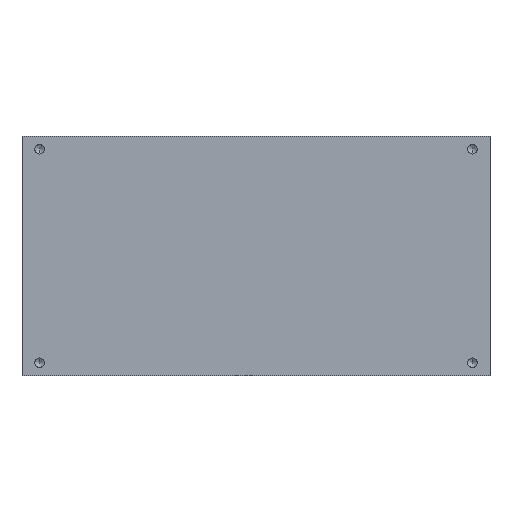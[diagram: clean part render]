
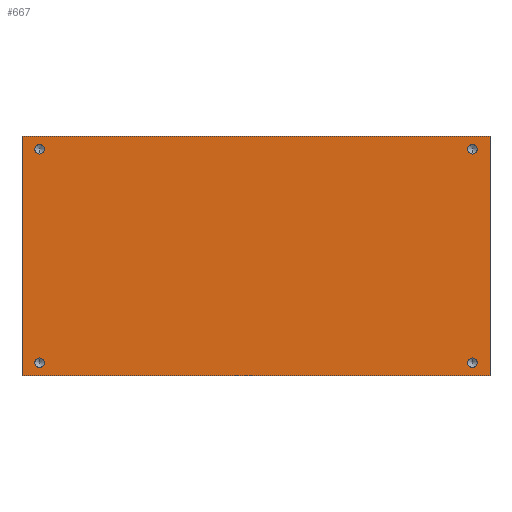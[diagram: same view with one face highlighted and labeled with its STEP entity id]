
A CAD part, front view. The second image highlights one B-rep face of the part: STEP entity #667.
In plain terms, the highlighted planar face has unit normal (0, -1, 0).
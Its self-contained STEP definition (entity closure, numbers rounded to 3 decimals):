
#13 = VERTEX_POINT ( 'NONE', #592 ) ;
#14 = EDGE_CURVE ( 'NONE', #442, #400, #664, .T. ) ;
#19 = DIRECTION ( 'NONE',  ( 0., 1., 0. ) ) ;
#35 = CIRCLE ( 'NONE', #460, 1.65 ) ;
#56 = VECTOR ( 'NONE', #136, 1000. ) ;
#78 = ORIENTED_EDGE ( 'NONE', *, *, #567, .F. ) ;
#85 = EDGE_CURVE ( 'NONE', #321, #559, #666, .T. ) ;
#94 = DIRECTION ( 'NONE',  ( 0., 0., -1. ) ) ;
#95 = EDGE_LOOP ( 'NONE', ( #175, #510 ) ) ;
#99 = AXIS2_PLACEMENT_3D ( 'NONE', #487, #267, #708 ) ;
#106 = DIRECTION ( 'NONE',  ( 0., 0., -1. ) ) ;
#107 = EDGE_CURVE ( 'NONE', #283, #298, #286, .T. ) ;
#121 = DIRECTION ( 'NONE',  ( 0., -1., 0. ) ) ;
#124 = ORIENTED_EDGE ( 'NONE', *, *, #348, .F. ) ;
#131 = FACE_BOUND ( 'NONE', #301, .T. ) ;
#132 = EDGE_LOOP ( 'NONE', ( #165, #454, #499, #492 ) ) ;
#136 = DIRECTION ( 'NONE',  ( 0., 0., -1. ) ) ;
#153 = CARTESIAN_POINT ( 'NONE',  ( 80., -6., 41. ) ) ;
#157 = CARTESIAN_POINT ( 'NONE',  ( -74., -6., -36.5 ) ) ;
#160 = CARTESIAN_POINT ( 'NONE',  ( -74., -6., -36.5 ) ) ;
#163 = AXIS2_PLACEMENT_3D ( 'NONE', #160, #399, #611 ) ;
#165 = ORIENTED_EDGE ( 'NONE', *, *, #314, .F. ) ;
#170 = VERTEX_POINT ( 'NONE', #387 ) ;
#175 = ORIENTED_EDGE ( 'NONE', *, *, #107, .F. ) ;
#180 = LINE ( 'NONE', #722, #325 ) ;
#185 = LINE ( 'NONE', #480, #56 ) ;
#186 = CARTESIAN_POINT ( 'NONE',  ( -74., -6., 38.15 ) ) ;
#211 = AXIS2_PLACEMENT_3D ( 'NONE', #530, #19, #638 ) ;
#212 = DIRECTION ( 'NONE',  ( 0., -1., 0. ) ) ;
#234 = ORIENTED_EDGE ( 'NONE', *, *, #85, .F. ) ;
#235 = FACE_BOUND ( 'NONE', #320, .T. ) ;
#238 = EDGE_LOOP ( 'NONE', ( #78, #447 ) ) ;
#245 = CARTESIAN_POINT ( 'NONE',  ( -74., -6., 34.85 ) ) ;
#267 = DIRECTION ( 'NONE',  ( 0., -1., 0. ) ) ;
#278 = CARTESIAN_POINT ( 'NONE',  ( 74., -6., 36.5 ) ) ;
#283 = VERTEX_POINT ( 'NONE', #715 ) ;
#284 = CARTESIAN_POINT ( 'NONE',  ( 74., -6., -36.5 ) ) ;
#286 = CIRCLE ( 'NONE', #163, 1.65 ) ;
#289 = DIRECTION ( 'NONE',  ( 0., 0., -1. ) ) ;
#297 = CARTESIAN_POINT ( 'NONE',  ( -74., -6., -34.85 ) ) ;
#298 = VERTEX_POINT ( 'NONE', #297 ) ;
#301 = EDGE_LOOP ( 'NONE', ( #701, #234 ) ) ;
#314 = EDGE_CURVE ( 'NONE', #170, #583, #180, .T. ) ;
#319 = AXIS2_PLACEMENT_3D ( 'NONE', #157, #121, #106 ) ;
#320 = EDGE_LOOP ( 'NONE', ( #324, #124 ) ) ;
#321 = VERTEX_POINT ( 'NONE', #511 ) ;
#324 = ORIENTED_EDGE ( 'NONE', *, *, #443, .F. ) ;
#325 = VECTOR ( 'NONE', #620, 1000. ) ;
#328 = CIRCLE ( 'NONE', #415, 1.65 ) ;
#343 = CARTESIAN_POINT ( 'NONE',  ( 80., -6., -41. ) ) ;
#348 = EDGE_CURVE ( 'NONE', #420, #689, #427, .T. ) ;
#378 = CARTESIAN_POINT ( 'NONE',  ( 74., -6., -38.15 ) ) ;
#387 = CARTESIAN_POINT ( 'NONE',  ( -80., -6., -41. ) ) ;
#388 = AXIS2_PLACEMENT_3D ( 'NONE', #278, #619, #562 ) ;
#391 = CIRCLE ( 'NONE', #402, 1.65 ) ;
#396 = DIRECTION ( 'NONE',  ( 1., 0., 0. ) ) ;
#399 = DIRECTION ( 'NONE',  ( 0., -1., 0. ) ) ;
#400 = VERTEX_POINT ( 'NONE', #378 ) ;
#402 = AXIS2_PLACEMENT_3D ( 'NONE', #556, #212, #289 ) ;
#415 = AXIS2_PLACEMENT_3D ( 'NONE', #284, #665, #560 ) ;
#420 = VERTEX_POINT ( 'NONE', #186 ) ;
#426 = DIRECTION ( 'NONE',  ( -1., 0., 0. ) ) ;
#427 = CIRCLE ( 'NONE', #99, 1.65 ) ;
#432 = FACE_OUTER_BOUND ( 'NONE', #132, .T. ) ;
#442 = VERTEX_POINT ( 'NONE', #486 ) ;
#443 = EDGE_CURVE ( 'NONE', #689, #420, #391, .T. ) ;
#445 = EDGE_CURVE ( 'NONE', #298, #283, #544, .T. ) ;
#447 = ORIENTED_EDGE ( 'NONE', *, *, #14, .F. ) ;
#454 = ORIENTED_EDGE ( 'NONE', *, *, #698, .F. ) ;
#455 = DIRECTION ( 'NONE',  ( 0., -1., 0. ) ) ;
#460 = AXIS2_PLACEMENT_3D ( 'NONE', #618, #455, #565 ) ;
#461 = CARTESIAN_POINT ( 'NONE',  ( 74., -6., 34.85 ) ) ;
#480 = CARTESIAN_POINT ( 'NONE',  ( 80., -6., 41. ) ) ;
#482 = VECTOR ( 'NONE', #426, 1000. ) ;
#486 = CARTESIAN_POINT ( 'NONE',  ( 74., -6., -34.85 ) ) ;
#487 = CARTESIAN_POINT ( 'NONE',  ( -74., -6., 36.5 ) ) ;
#492 = ORIENTED_EDGE ( 'NONE', *, *, #622, .F. ) ;
#499 = ORIENTED_EDGE ( 'NONE', *, *, #700, .F. ) ;
#510 = ORIENTED_EDGE ( 'NONE', *, *, #445, .F. ) ;
#511 = CARTESIAN_POINT ( 'NONE',  ( 74., -6., 38.15 ) ) ;
#521 = CARTESIAN_POINT ( 'NONE',  ( 80., -6., -41. ) ) ;
#530 = CARTESIAN_POINT ( 'NONE',  ( 0., -6., 0. ) ) ;
#543 = EDGE_CURVE ( 'NONE', #559, #321, #35, .T. ) ;
#544 = CIRCLE ( 'NONE', #319, 1.65 ) ;
#545 = VERTEX_POINT ( 'NONE', #343 ) ;
#546 = CARTESIAN_POINT ( 'NONE',  ( 74., -6., -36.5 ) ) ;
#556 = CARTESIAN_POINT ( 'NONE',  ( -74., -6., 36.5 ) ) ;
#559 = VERTEX_POINT ( 'NONE', #461 ) ;
#560 = DIRECTION ( 'NONE',  ( 0., 0., -1. ) ) ;
#562 = DIRECTION ( 'NONE',  ( 0., 0., -1. ) ) ;
#565 = DIRECTION ( 'NONE',  ( 0., 0., -1. ) ) ;
#567 = EDGE_CURVE ( 'NONE', #400, #442, #328, .T. ) ;
#581 = PLANE ( 'NONE',  #211 ) ;
#583 = VERTEX_POINT ( 'NONE', #674 ) ;
#592 = CARTESIAN_POINT ( 'NONE',  ( 80., -6., 41. ) ) ;
#600 = VECTOR ( 'NONE', #396, 1000. ) ;
#604 = DIRECTION ( 'NONE',  ( 0., -1., 0. ) ) ;
#611 = DIRECTION ( 'NONE',  ( 0., 0., -1. ) ) ;
#618 = CARTESIAN_POINT ( 'NONE',  ( 74., -6., 36.5 ) ) ;
#619 = DIRECTION ( 'NONE',  ( 0., -1., 0. ) ) ;
#620 = DIRECTION ( 'NONE',  ( 0., 0., 1. ) ) ;
#622 = EDGE_CURVE ( 'NONE', #583, #13, #660, .T. ) ;
#623 = AXIS2_PLACEMENT_3D ( 'NONE', #546, #604, #94 ) ;
#638 = DIRECTION ( 'NONE',  ( 0., 0., 1. ) ) ;
#660 = LINE ( 'NONE', #153, #600 ) ;
#664 = CIRCLE ( 'NONE', #623, 1.65 ) ;
#665 = DIRECTION ( 'NONE',  ( 0., -1., 0. ) ) ;
#666 = CIRCLE ( 'NONE', #388, 1.65 ) ;
#667 = ADVANCED_FACE ( 'NONE', ( #690, #235, #131, #697, #432 ), #581, .F. ) ;
#674 = CARTESIAN_POINT ( 'NONE',  ( -80., -6., 41. ) ) ;
#688 = LINE ( 'NONE', #521, #482 ) ;
#689 = VERTEX_POINT ( 'NONE', #245 ) ;
#690 = FACE_BOUND ( 'NONE', #95, .T. ) ;
#697 = FACE_BOUND ( 'NONE', #238, .T. ) ;
#698 = EDGE_CURVE ( 'NONE', #545, #170, #688, .T. ) ;
#700 = EDGE_CURVE ( 'NONE', #13, #545, #185, .T. ) ;
#701 = ORIENTED_EDGE ( 'NONE', *, *, #543, .F. ) ;
#708 = DIRECTION ( 'NONE',  ( 0., 0., -1. ) ) ;
#715 = CARTESIAN_POINT ( 'NONE',  ( -74., -6., -38.15 ) ) ;
#722 = CARTESIAN_POINT ( 'NONE',  ( -80., -6., 41. ) ) ;
